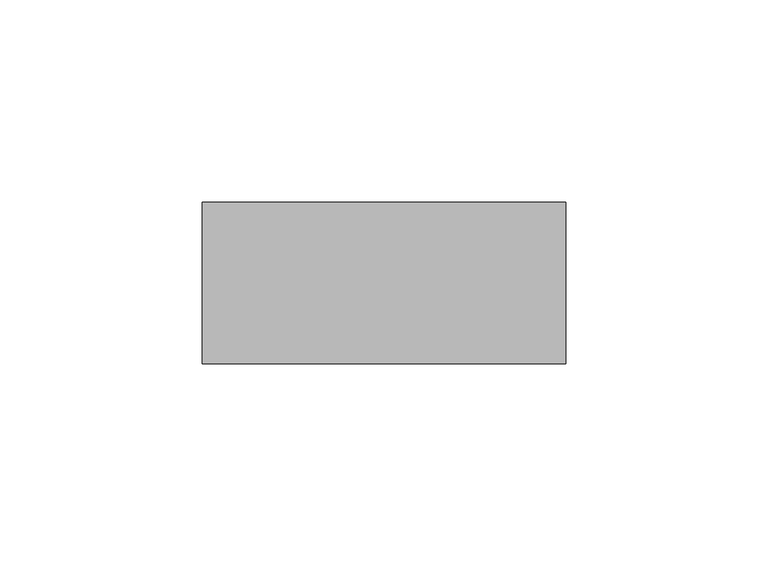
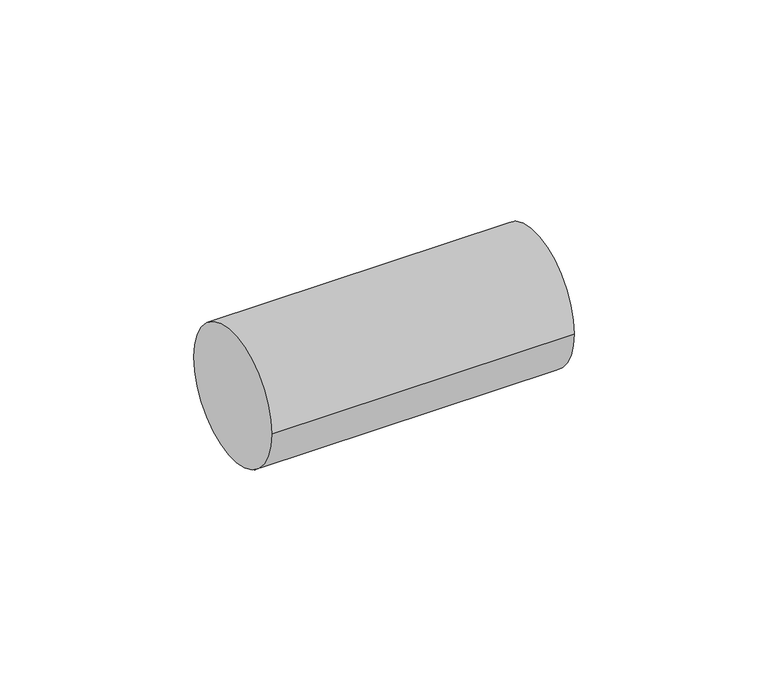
"""IFC4 building model written with IfcOpenShell, lengths in millimetres: valve geometry, EVRA_Термоголовка EVRA MТB140 : EVRA MТB140."""

from ifc_helpers import new_model, si_unit, point, frame, origin, origin_2d, place, context, project, spatial, circle_curve, trimmed, segment, composite_curve, outline, extrude, source, transform, mapped, element, save


def valve_8453c3c0(model_context):
    return source(origin(), model_context, "Body", "SweptSolid", [
        extrude(outline(composite_curve([segment(trimmed(circle_curve(origin_2d(), 20.0), [point((-20.0, 0.0))], [point((20.0, 0.0))], False, "CARTESIAN"), True, "CONTINUOUS"), segment(trimmed(circle_curve(origin_2d(), 20.0), [point((20.0, 0.0))], [point((-20.0, 0.0))], False, "CARTESIAN"), True, "CONTINUOUS")], self_intersect=False)), frame((-890.0, 0.0, 0.0), z_axis=(1.0, 0.0, 0.0), x_axis=(0.0, 1.0, 0.0)), (0.0, 0.0, 1.0), 90.0),
    ])


if __name__ == "__main__":
    model = new_model("IFC4")
    model_context = context("Model", 3, world=origin())
    ifc_project = project(units=[si_unit("LENGTHUNIT", "METRE", prefix="MILLI")], contexts=[model_context])
    site = spatial("IfcSite", under=ifc_project)
    building = spatial("IfcBuilding", under=site)
    placement = place(None, origin())
    valve_shape = valve_8453c3c0(model_context)
    element("IfcValve", 1, ObjectType="EVRA_Термоголовка EVRA MТB140 : EVRA MТB140", at=placement, inside=building, context=model_context, shape_type="MappedRepresentation", body=[
        mapped(valve_shape, transform((0.0, 0.0, 0.0), x_axis=(1.0, 0.0, 0.0), y_axis=(0.0, 1.0, 0.0), z_axis=(0.0, 0.0, 1.0))),
    ])
    save(model, "model.ifc")
